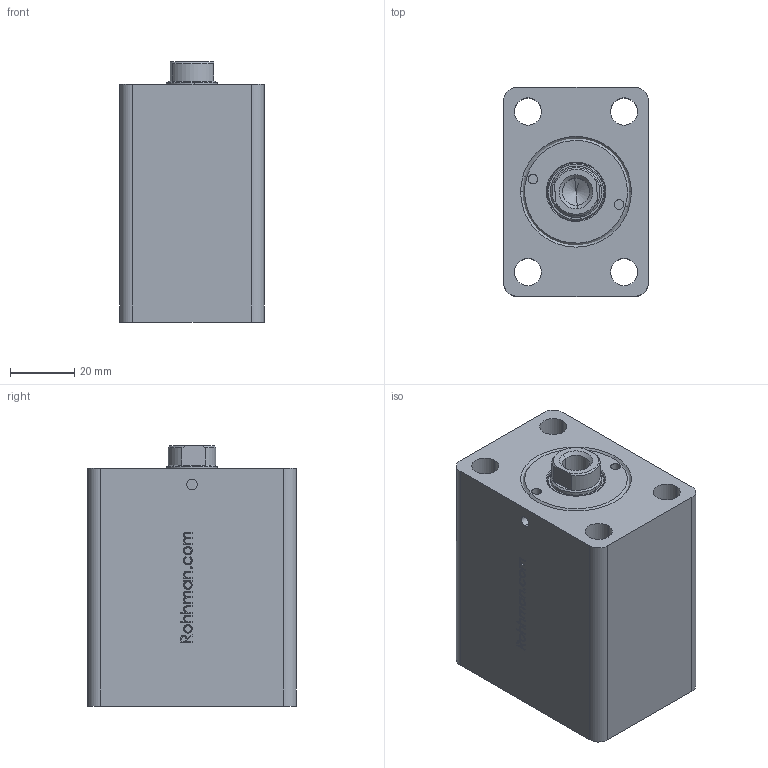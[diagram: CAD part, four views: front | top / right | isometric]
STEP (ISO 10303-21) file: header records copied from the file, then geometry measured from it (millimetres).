
FILE_DESCRIPTION (( 'STEP AP214' ), '1' );
FILE_NAME ('KBZ_02_25_16_30.STEP', '2022-09-03T17:54:50', ( '' ), ( '' ), 'SwSTEP 2.0', 'SolidWorks 2021', '' );
FILE_SCHEMA (( 'AUTOMOTIVE_DESIGN' ));
Length unit declared in the file: millimetre
Products named in the file (9): K22-16X20_5X5; KBZ_03_25_16_ON_KAPAK; KO-22X2_5; KBZ_02_25_16_30; K06-16X22_8X3_1X4 (K016_3); KBZ_02_25_25_GOVDE_WEB; KBZ_03_25_16_烰_KAPAK; 16_K_MIL_WEB; 16_18_PAP_16_18_5_PAP
Assembly tree (8 placements, depth 3):
  KBZ_02_25_16_30
    KBZ_02_25_25_GOVDE_WEB
    16_K_MIL_WEB
    KBZ_03_25_16_烰_KAPAK
      KBZ_03_25_16_ON_KAPAK
      K22-16X20_5X5
      K06-16X22_8X3_1X4 (K016_3)
      KO-22X2_5
      16_18_PAP_16_18_5_PAP
Bounding box: 45 x 65 x 81 mm (x, y, z)
Volume: 178222.1 mm3; surface area: 47805 mm2
Topology: 7 solids, 7 shells, 387 faces, 920 edges, 580 vertices
Faces by surface type: bspline 130, plane 117, cylinder 79, cone 53, torus 8
Entity records: 16653 total; most frequent: CARTESIAN_POINT 8020, ORIENTED_EDGE 1836, DIRECTION 1410, EDGE_CURVE 918, VERTEX_POINT 580, AXIS2_PLACEMENT_3D 494, EDGE_LOOP 444, LINE 422
